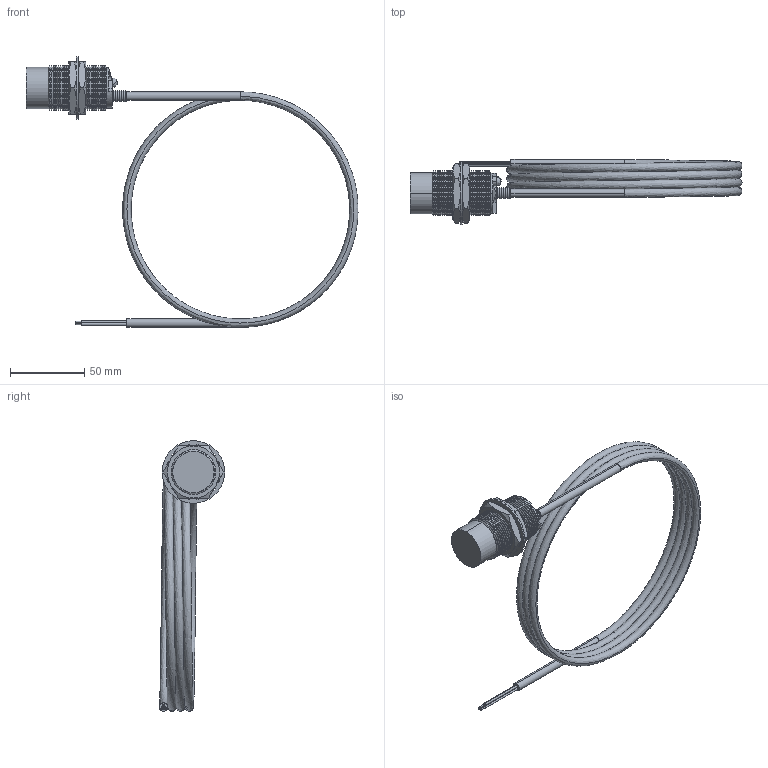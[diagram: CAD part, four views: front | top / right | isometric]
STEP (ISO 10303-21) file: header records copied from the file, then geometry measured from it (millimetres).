
FILE_DESCRIPTION (( 'STEP AP203' ), '1' );
FILE_NAME ('90-29417-079.STEP', '2016-04-29T18:54:39', ( 'Sam' ), ( 'Spade' ), 'SwSTEP 2.0', 'SolidWorks 2002296', '' );
FILE_SCHEMA (( 'CONFIG_CONTROL_DESIGN' ));
Length unit declared in the file: inch
Products named in the file (18): 90-29417-079; Imported33; Imported32; Imported31; Imported36; Imported35; Imported34; Imported40; Imported39; Imported38; Imported37; Imported42; Imported41; Imported46; Imported45; Imported44; Imported43; Imported47
Assembly tree (17 placements, depth 2):
  90-29417-079
    Imported33
    Imported31
    Imported38
    Imported40
    Imported46
    Imported37
    Imported32
    Imported36
    Imported44
    Imported41
    Imported43
    Imported35
    Imported47
    Imported34
    Imported42
    Imported45
    Imported39
Bounding box: 223.04 x 43.98 x 181.8 mm (x, y, z)
Volume: 88816.7 mm3; surface area: 50812.9 mm2
Topology: 17 solids, 17 shells, 384 faces, 881 edges, 537 vertices
Faces by surface type: cone 157, cylinder 126, plane 96, bspline 5
Entity records: 13897 total; most frequent: CARTESIAN_POINT 3059, DIRECTION 2036, ORIENTED_EDGE 1758, EDGE_CURVE 879, AXIS2_PLACEMENT_3D 820, VERTEX_POINT 537, CIRCLE 421, EDGE_LOOP 400
